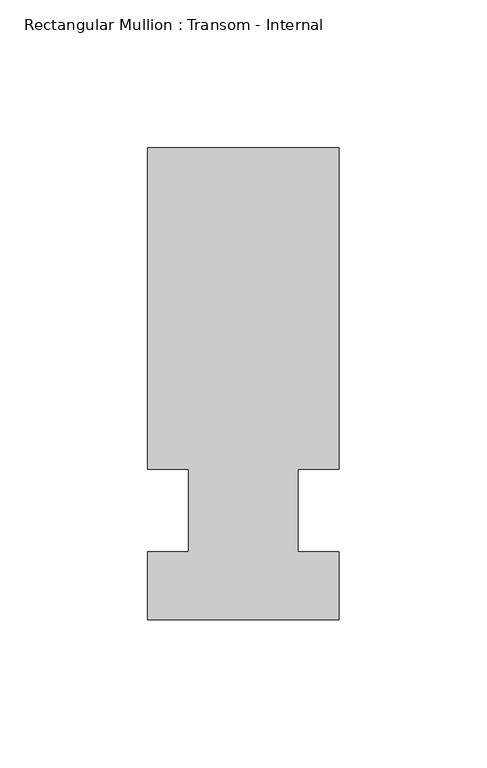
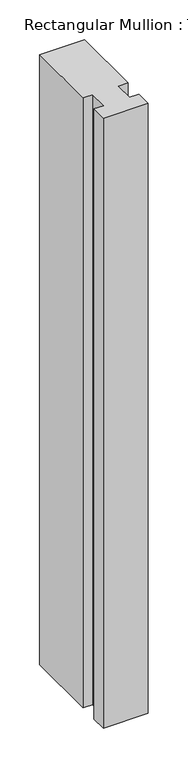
"""IFC4 building model written with IfcOpenShell, lengths in millimetres: member geometry, Rectangular Mullion : Transom - Internal."""

from ifc_helpers import new_model, si_unit, frame, origin, place, context, project, spatial, polyline, outline, extrude, source, transform, mapped, element, save


def rectangular_mullion_transom_internal_22ee2171(model_context):
    return source(origin(), model_context, "Body", "SweptSolid", [
        extrude(outline(polyline([(-32.5, -14.0), (-18.5, -14.0), (-18.5, 14.0), (-32.5, 14.0), (-32.5, 123.0), (32.5, 123.0), (32.5, 14.0), (18.5, 14.0), (18.5, -14.0), (32.5, -14.0), (32.5, -37.0307322), (-32.5, -37.0307322), (-32.5, -14.0)])), frame((0.0, 0.0, -935.0), z_axis=(0.0, 0.0, 1.0), x_axis=(1.0, 0.0, 0.0)), (0.0, 0.0, 1.0), 935.0),
    ])


if __name__ == "__main__":
    model = new_model("IFC4")
    model_context = context("Model", 3, world=origin())
    ifc_project = project(units=[si_unit("LENGTHUNIT", "METRE", prefix="MILLI")], contexts=[model_context])
    site = spatial("IfcSite", under=ifc_project)
    building = spatial("IfcBuilding", under=site)
    placement = place(None, origin())
    rectangular_mullion_transom_internal_shape = rectangular_mullion_transom_internal_22ee2171(model_context)
    element("IfcMember", 1, ObjectType="Rectangular Mullion : Transom - Internal", at=placement, inside=building, context=model_context, shape_type="MappedRepresentation", body=[
        mapped(rectangular_mullion_transom_internal_shape, transform((0.0, 0.0, 0.0), x_axis=(1.0, 0.0, 0.0), y_axis=(0.0, 1.0, 0.0), z_axis=(0.0, 0.0, 1.0))),
    ])
    save(model, "model.ifc")
